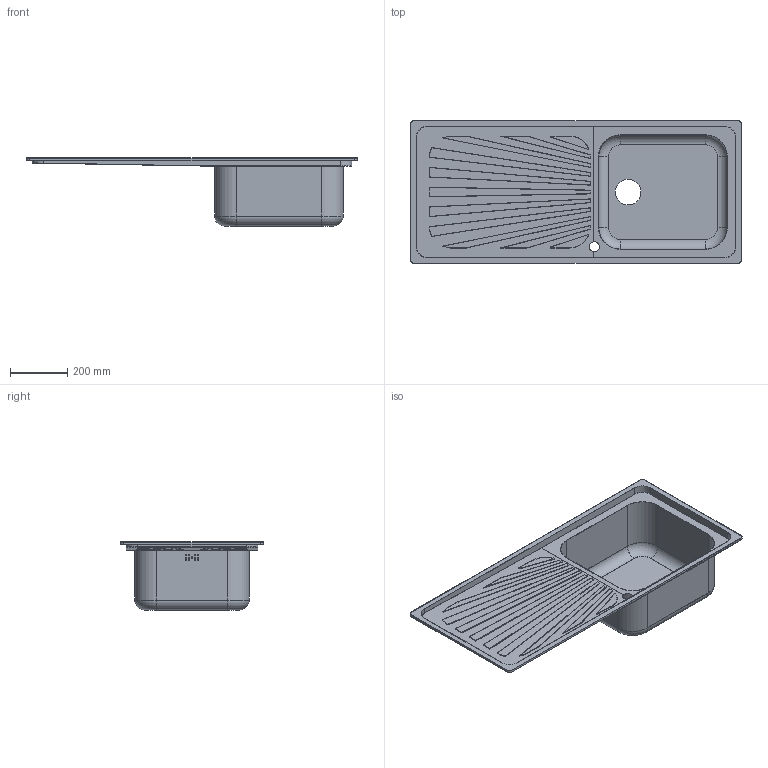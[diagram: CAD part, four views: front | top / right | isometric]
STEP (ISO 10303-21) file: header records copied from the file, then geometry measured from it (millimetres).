
FILE_DESCRIPTION(('CATIA V5 STEP Exchange'),'2;1');
FILE_NAME('C:\Users\linop\Desktop\SGE116.1D.stp','2018-05-25T09:52:12+00:00',('none'),('none'),'CATIA Version 5-6 Release 2014','CATIA V5 STEP AP203','none');
FILE_SCHEMA(('CONFIG_CONTROL_DESIGN'));
Length unit declared in the file: millimetre
Products named in the file (1): SGE116.1D
Bounding box: 1160 x 500 x 238.7 mm (x, y, z)
Volume: 698444.8 mm3; surface area: 2000490 mm2
Topology: 2 solids, 2 shells, 284 faces, 752 edges, 496 vertices
Faces by surface type: plane 162, cylinder 114, torus 8
Entity records: 8548 total; most frequent: CARTESIAN_POINT 1848, ORIENTED_EDGE 1504, DIRECTION 1107, EDGE_CURVE 752, VERTEX_POINT 496, VECTOR 468, LINE 468, AXIS2_PLACEMENT_3D 409
